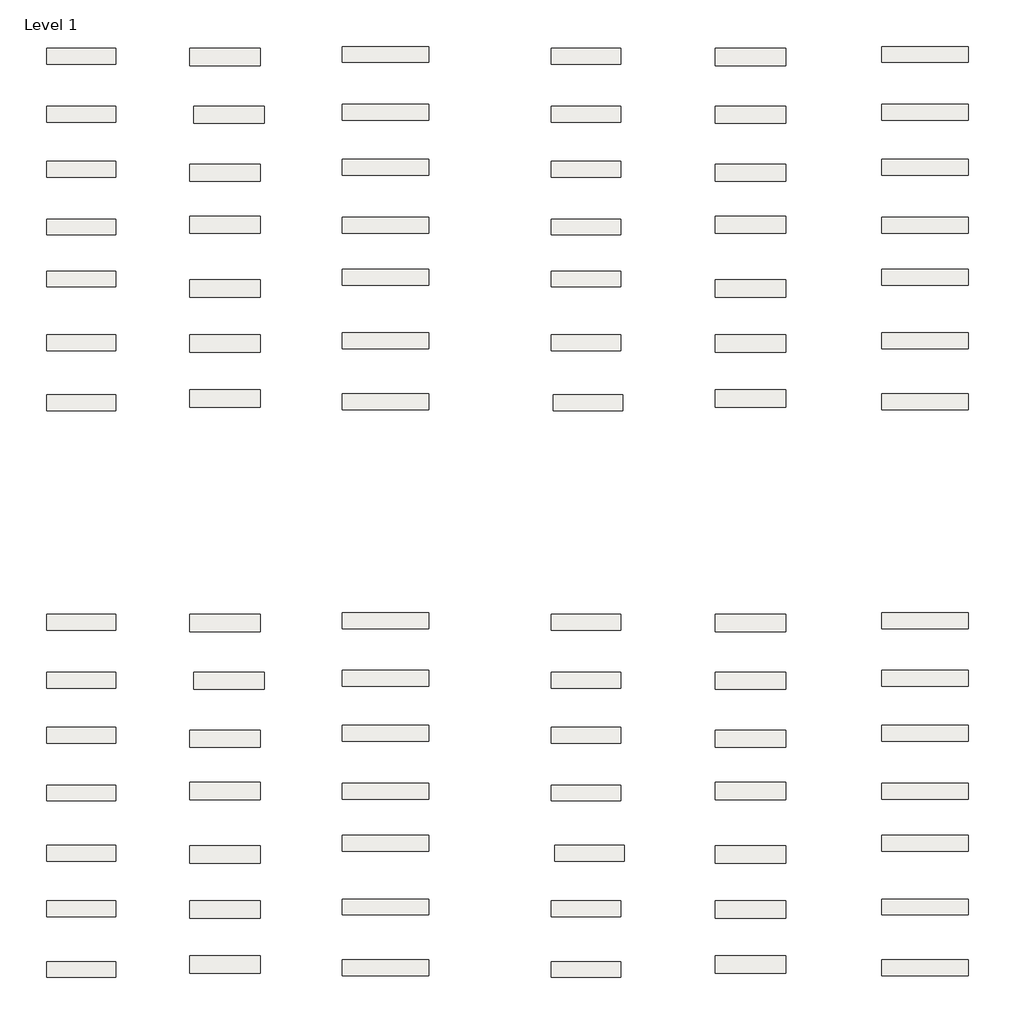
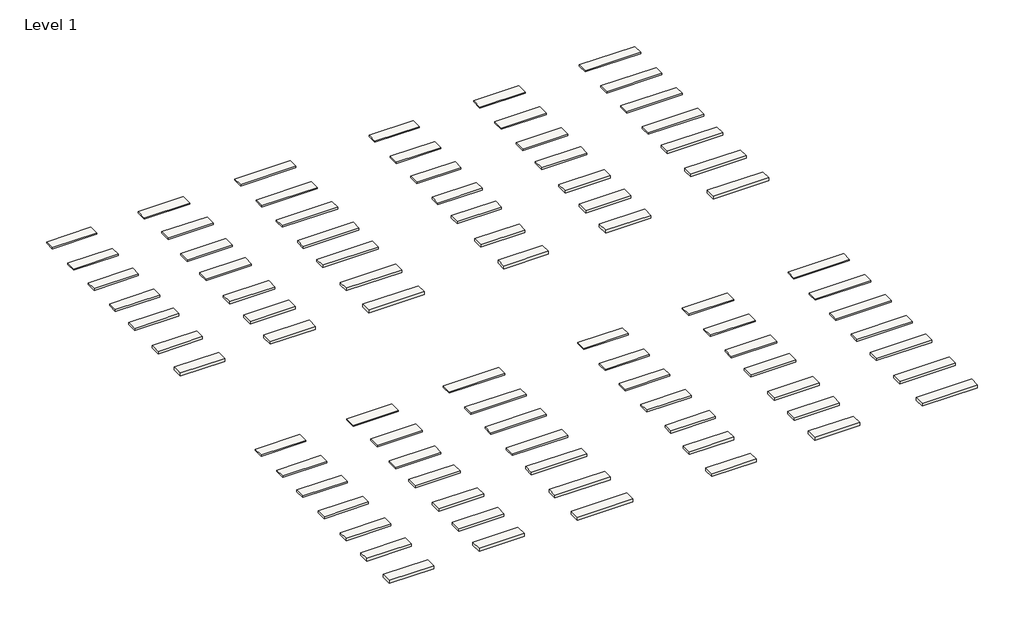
# One storey: 84 roofs.
"""IFC4 building model written with IfcOpenShell, lengths in millimetres."""

from ifc_helpers import new_model, si_unit, origin, origin_with_axes, place, context, project, spatial, polyline, outline, extrude, element, save

model = new_model("IFC4")

# Units and contexts
model_context = context("Model", 3, world=origin())
ifc_project = project(units=[si_unit("LENGTHUNIT", "METRE", prefix="MILLI")], contexts=[model_context])

# Site, building, storey
site = spatial("IfcSite", under=ifc_project)
building = spatial("IfcBuilding", under=site)
storey = spatial("IfcBuildingStorey", under=building, Name="Level 1", Elevation=0.0)

# Roofs
placement = place(None, origin())
element("IfcRoof", 1, ObjectType="Panel Thermochip TYH 12-40-16 (2400x550)", at=placement, inside=storey, context=model_context, shape_type="SweptSolid", body=[
    extrude(outline(polyline([(-14730.2639435, 6399.8223879), (-12330.2639435, 6399.8223879), (-12330.2639435, 5849.8223879), (-14730.2639435, 5849.8223879), (-14730.2639435, 6399.8223879)])), origin_with_axes(), (0.0, 0.0, 1.0), 68.0),
])
element("IfcRoof", 2, ObjectType="Panel Thermochip TYH 12-50-16 (2400x550)", at=placement, inside=storey, context=model_context, shape_type="SweptSolid", body=[
    extrude(outline(polyline([(-14730.2639435, 4399.8223879), (-12330.2639435, 4399.8223879), (-12330.2639435, 3849.8223879), (-14730.2639435, 3849.8223879), (-14730.2639435, 4399.8223879)])), origin_with_axes(), (0.0, 0.0, 1.0), 78.0),
])
element("IfcRoof", 3, ObjectType="Panel Thermochip TYH 12-60-16 (2400x550)", at=placement, inside=storey, context=model_context, shape_type="SweptSolid", body=[
    extrude(outline(polyline([(-14730.2639435, 2499.8223879), (-12330.2639435, 2499.8223879), (-12330.2639435, 1949.8223879), (-14730.2639435, 1949.8223879), (-14730.2639435, 2499.8223879)])), origin_with_axes(), (0.0, 0.0, 1.0), 88.0),
])
element("IfcRoof", 4, ObjectType="Panel Thermochip TYH 12-80-16 (2400x550)", at=placement, inside=storey, context=model_context, shape_type="SweptSolid", body=[
    extrude(outline(polyline([(-14730.2639435, 499.8223879), (-12330.2639435, 499.8223879), (-12330.2639435, -50.1776121), (-14730.2639435, -50.1776121), (-14730.2639435, 499.8223879)])), origin_with_axes(), (0.0, 0.0, 1.0), 108.0),
])
element("IfcRoof", 5, ObjectType="Panel Thermochip TYH 12-100-16 (2400x550)", at=placement, inside=storey, context=model_context, shape_type="SweptSolid", body=[
    extrude(outline(polyline([(-14730.2639435, -1300.1776121), (-12330.2639435, -1300.1776121), (-12330.2639435, -1850.1776121), (-14730.2639435, -1850.1776121), (-14730.2639435, -1300.1776121)])), origin_with_axes(), (0.0, 0.0, 1.0), 128.0),
])
element("IfcRoof", 6, ObjectType="Panel Thermochip TYH 12-120-16 (2400x550)", at=placement, inside=storey, context=model_context, shape_type="SweptSolid", body=[
    extrude(outline(polyline([(-14730.2639435, -3500.1776121), (-12330.2639435, -3500.1776121), (-12330.2639435, -4050.1776121), (-14730.2639435, -4050.1776121), (-14730.2639435, -3500.1776121)])), origin_with_axes(), (0.0, 0.0, 1.0), 148.0),
])
element("IfcRoof", 7, ObjectType="Panel Thermochip TYH 12-140-16 (2400x550)", at=placement, inside=storey, context=model_context, shape_type="SweptSolid", body=[
    extrude(outline(polyline([(-14730.2639435, -5581.0046098), (-12330.2639435, -5581.0046098), (-12330.2639435, -6131.0046098), (-14730.2639435, -6131.0046098), (-14730.2639435, -5581.0046098)])), origin_with_axes(), (0.0, 0.0, 1.0), 168.0),
])
element("IfcRoof", 8, ObjectType="Panel Thermochip TYH 12-40-16 (2440x600)", at=placement, inside=storey, context=model_context, shape_type="SweptSolid", body=[
    extrude(outline(polyline([(-9778.9678788, 6399.8223879), (-7338.9678788, 6399.8223879), (-7338.9678788, 5799.8223879), (-9778.9678788, 5799.8223879), (-9778.9678788, 6399.8223879)])), origin_with_axes(), (0.0, 0.0, 1.0), 68.0),
])
element("IfcRoof", 9, ObjectType="Panel Thermochip TYH 12-50-16 (2440x600)", at=placement, inside=storey, context=model_context, shape_type="SweptSolid", body=[
    extrude(outline(polyline([(-9639.4549313, 4404.6942874), (-7199.4549313, 4404.6942874), (-7199.4549313, 3804.6942874), (-9639.4549313, 3804.6942874), (-9639.4549313, 4404.6942874)])), origin_with_axes(), (0.0, 0.0, 1.0), 78.0),
])
element("IfcRoof", 10, ObjectType="Panel Thermochip TYH 12-60-16 (2440x600)", at=placement, inside=storey, context=model_context, shape_type="SweptSolid", body=[
    extrude(outline(polyline([(-9778.9678788, 2399.8223879), (-7338.9678788, 2399.8223879), (-7338.9678788, 1799.8223879), (-9778.9678788, 1799.8223879), (-9778.9678788, 2399.8223879)])), origin_with_axes(), (0.0, 0.0, 1.0), 88.0),
])
element("IfcRoof", 11, ObjectType="Panel Thermochip TYH 12-80-16 (2440x600)", at=placement, inside=storey, context=model_context, shape_type="SweptSolid", body=[
    extrude(outline(polyline([(-9778.9678788, 599.8223879), (-7338.9678788, 599.8223879), (-7338.9678788, -0.1776121), (-9778.9678788, -0.1776121), (-9778.9678788, 599.8223879)])), origin_with_axes(), (0.0, 0.0, 1.0), 108.0),
])
element("IfcRoof", 12, ObjectType="Panel Thermochip TYH 12-100-16 (2440x600)", at=placement, inside=storey, context=model_context, shape_type="SweptSolid", body=[
    extrude(outline(polyline([(-9778.9678788, -1600.1776121), (-7338.9678788, -1600.1776121), (-7338.9678788, -2200.1776121), (-9778.9678788, -2200.1776121), (-9778.9678788, -1600.1776121)])), origin_with_axes(), (0.0, 0.0, 1.0), 128.0),
])
element("IfcRoof", 13, ObjectType="Panel Thermochip TYH 12-120-16 (2440x600)", at=placement, inside=storey, context=model_context, shape_type="SweptSolid", body=[
    extrude(outline(polyline([(-9778.9678788, -3500.1776121), (-7338.9678788, -3500.1776121), (-7338.9678788, -4100.1776121), (-9778.9678788, -4100.1776121), (-9778.9678788, -3500.1776121)])), origin_with_axes(), (0.0, 0.0, 1.0), 148.0),
])
element("IfcRoof", 14, ObjectType="Panel Thermochip TYH 12-140-16 (2440x600)", at=placement, inside=storey, context=model_context, shape_type="SweptSolid", body=[
    extrude(outline(polyline([(-9778.9678788, -5400.1776121), (-7338.9678788, -5400.1776121), (-7338.9678788, -6000.1776121), (-9778.9678788, -6000.1776121), (-9778.9678788, -5400.1776121)])), origin_with_axes(), (0.0, 0.0, 1.0), 168.0),
])
element("IfcRoof", 15, ObjectType="Panel Thermochip TYH 12-40-16 (3000x550)", at=placement, inside=storey, context=model_context, shape_type="SweptSolid", body=[
    extrude(outline(polyline([(-4517.1497178, 6460.3549134), (-1517.1497178, 6460.3549134), (-1517.1497178, 5910.3549134), (-4517.1497178, 5910.3549134), (-4517.1497178, 6460.3549134)])), origin_with_axes(), (0.0, 0.0, 1.0), 68.0),
])
element("IfcRoof", 16, ObjectType="Panel Thermochip TYH 12-50-16 (3000x550)", at=placement, inside=storey, context=model_context, shape_type="SweptSolid", body=[
    extrude(outline(polyline([(-4517.1497178, 4460.3549134), (-1517.1497178, 4460.3549134), (-1517.1497178, 3910.3549134), (-4517.1497178, 3910.3549134), (-4517.1497178, 4460.3549134)])), origin_with_axes(), (0.0, 0.0, 1.0), 78.0),
])
element("IfcRoof", 17, ObjectType="Panel Thermochip TYH 12-60-16 (3000x550)", at=placement, inside=storey, context=model_context, shape_type="SweptSolid", body=[
    extrude(outline(polyline([(-4517.1497178, 2560.3549134), (-1517.1497178, 2560.3549134), (-1517.1497178, 2010.3549134), (-4517.1497178, 2010.3549134), (-4517.1497178, 2560.3549134)])), origin_with_axes(), (0.0, 0.0, 1.0), 88.0),
])
element("IfcRoof", 18, ObjectType="Panel Thermochip TYH 12-80-16 (3000x550)", at=placement, inside=storey, context=model_context, shape_type="SweptSolid", body=[
    extrude(outline(polyline([(-4517.1497178, 560.3549134), (-1517.1497178, 560.3549134), (-1517.1497178, 10.3549134), (-4517.1497178, 10.3549134), (-4517.1497178, 560.3549134)])), origin_with_axes(), (0.0, 0.0, 1.0), 108.0),
])
element("IfcRoof", 19, ObjectType="Panel Thermochip TYH 12-100-16 (3000x550)", at=placement, inside=storey, context=model_context, shape_type="SweptSolid", body=[
    extrude(outline(polyline([(-4517.1497178, -1239.6450866), (-1517.1497178, -1239.6450866), (-1517.1497178, -1789.6450866), (-4517.1497178, -1789.6450866), (-4517.1497178, -1239.6450866)])), origin_with_axes(), (0.0, 0.0, 1.0), 128.0),
])
element("IfcRoof", 20, ObjectType="Panel Thermochip TYH 12-120-16 (3000x600)", at=placement, inside=storey, context=model_context, shape_type="SweptSolid", body=[
    extrude(outline(polyline([(-4517.1497178, -3439.6450866), (-1517.1497178, -3439.6450866), (-1517.1497178, -3989.6450866), (-4517.1497178, -3989.6450866), (-4517.1497178, -3439.6450866)])), origin_with_axes(), (0.0, 0.0, 1.0), 148.0),
])
element("IfcRoof", 21, ObjectType="Panel Thermochip TYH 12-140-16 (3000x550)", at=placement, inside=storey, context=model_context, shape_type="SweptSolid", body=[
    extrude(outline(polyline([(-4517.1497178, -5539.6450866), (-1517.1497178, -5539.6450866), (-1517.1497178, -6089.6450866), (-4517.1497178, -6089.6450866), (-4517.1497178, -5539.6450866)])), origin_with_axes(), (0.0, 0.0, 1.0), 168.0),
])
element("IfcRoof", 22, ObjectType="Panel Thermochip TYH 12-40-19 (2400x550)", at=placement, inside=storey, context=model_context, shape_type="SweptSolid", body=[
    extrude(outline(polyline([(-14730.2639435, -13163.6783749), (-12330.2639435, -13163.6783749), (-12330.2639435, -13713.6783749), (-14730.2639435, -13713.6783749), (-14730.2639435, -13163.6783749)])), origin_with_axes(), (0.0, 0.0, 1.0), 71.0),
])
element("IfcRoof", 23, ObjectType="Panel Thermochip TYH 12-50-19 (2400x550)", at=placement, inside=storey, context=model_context, shape_type="SweptSolid", body=[
    extrude(outline(polyline([(-14730.2639435, -15163.6783749), (-12330.2639435, -15163.6783749), (-12330.2639435, -15713.6783749), (-14730.2639435, -15713.6783749), (-14730.2639435, -15163.6783749)])), origin_with_axes(), (0.0, 0.0, 1.0), 81.0),
])
element("IfcRoof", 24, ObjectType="Panel Thermochip TYH 12-60-19 (2400x550)", at=placement, inside=storey, context=model_context, shape_type="SweptSolid", body=[
    extrude(outline(polyline([(-14730.2639435, -17063.6783749), (-12330.2639435, -17063.6783749), (-12330.2639435, -17613.6783749), (-14730.2639435, -17613.6783749), (-14730.2639435, -17063.6783749)])), origin_with_axes(), (0.0, 0.0, 1.0), 91.0),
])
element("IfcRoof", 25, ObjectType="Panel Thermochip TYH 12-80-19 (2400x550)", at=placement, inside=storey, context=model_context, shape_type="SweptSolid", body=[
    extrude(outline(polyline([(-14730.2639435, -19063.6783749), (-12330.2639435, -19063.6783749), (-12330.2639435, -19613.6783749), (-14730.2639435, -19613.6783749), (-14730.2639435, -19063.6783749)])), origin_with_axes(), (0.0, 0.0, 1.0), 111.0),
])
element("IfcRoof", 26, ObjectType="Panel Thermochip TYH 12-100-19 (2400x550)", at=placement, inside=storey, context=model_context, shape_type="SweptSolid", body=[
    extrude(outline(polyline([(-14730.2639435, -21143.3614717), (-12330.2639435, -21143.3614717), (-12330.2639435, -21693.3614717), (-14730.2639435, -21693.3614717), (-14730.2639435, -21143.3614717)])), origin_with_axes(), (0.0, 0.0, 1.0), 131.0),
])
element("IfcRoof", 27, ObjectType="Panel Thermochip TYH 12-120-19 (2400x550)", at=placement, inside=storey, context=model_context, shape_type="SweptSolid", body=[
    extrude(outline(polyline([(-14730.2639435, -23063.6783749), (-12330.2639435, -23063.6783749), (-12330.2639435, -23613.6783749), (-14730.2639435, -23613.6783749), (-14730.2639435, -23063.6783749)])), origin_with_axes(), (0.0, 0.0, 1.0), 151.0),
])
element("IfcRoof", 28, ObjectType="Panel Thermochip TYH 12-140-19 (2400x550)", at=placement, inside=storey, context=model_context, shape_type="SweptSolid", body=[
    extrude(outline(polyline([(-14730.2639435, -25163.6783749), (-12330.2639435, -25163.6783749), (-12330.2639435, -25713.6783749), (-14730.2639435, -25713.6783749), (-14730.2639435, -25163.6783749)])), origin_with_axes(), (0.0, 0.0, 1.0), 171.0),
])
element("IfcRoof", 29, ObjectType="Panel Thermochip TYH 12-40-19 (2440x600)", at=placement, inside=storey, context=model_context, shape_type="SweptSolid", body=[
    extrude(outline(polyline([(-9778.9678788, -13163.6783749), (-7338.9678788, -13163.6783749), (-7338.9678788, -13763.6783749), (-9778.9678788, -13763.6783749), (-9778.9678788, -13163.6783749)])), origin_with_axes(), (0.0, 0.0, 1.0), 71.0),
])
element("IfcRoof", 30, ObjectType="Panel Thermochip TYH 12-50-19 (2440x600)", at=placement, inside=storey, context=model_context, shape_type="SweptSolid", body=[
    extrude(outline(polyline([(-9639.4549313, -15158.8064755), (-7199.4549313, -15158.8064755), (-7199.4549313, -15758.8064755), (-9639.4549313, -15758.8064755), (-9639.4549313, -15158.8064755)])), origin_with_axes(), (0.0, 0.0, 1.0), 81.0),
])
element("IfcRoof", 31, ObjectType="Panel Thermochip TYH 12-60-19 (2440x600)", at=placement, inside=storey, context=model_context, shape_type="SweptSolid", body=[
    extrude(outline(polyline([(-9778.9678788, -17163.6783749), (-7338.9678788, -17163.6783749), (-7338.9678788, -17763.6783749), (-9778.9678788, -17763.6783749), (-9778.9678788, -17163.6783749)])), origin_with_axes(), (0.0, 0.0, 1.0), 91.0),
])
element("IfcRoof", 32, ObjectType="Panel Thermochip TYH 12-80-19 (2440x600)", at=placement, inside=storey, context=model_context, shape_type="SweptSolid", body=[
    extrude(outline(polyline([(-9778.9678788, -18963.6783749), (-7338.9678788, -18963.6783749), (-7338.9678788, -19563.6783749), (-9778.9678788, -19563.6783749), (-9778.9678788, -18963.6783749)])), origin_with_axes(), (0.0, 0.0, 1.0), 111.0),
])
element("IfcRoof", 33, ObjectType="Panel Thermochip TYH 12-100-19 (2440x600)", at=placement, inside=storey, context=model_context, shape_type="SweptSolid", body=[
    extrude(outline(polyline([(-9778.9678788, -21163.6783749), (-7338.9678788, -21163.6783749), (-7338.9678788, -21763.6783749), (-9778.9678788, -21763.6783749), (-9778.9678788, -21163.6783749)])), origin_with_axes(), (0.0, 0.0, 1.0), 131.0),
])
element("IfcRoof", 34, ObjectType="Panel Thermochip TYH 12-120-19 (2440x600)", at=placement, inside=storey, context=model_context, shape_type="SweptSolid", body=[
    extrude(outline(polyline([(-9778.9678788, -23063.6783749), (-7338.9678788, -23063.6783749), (-7338.9678788, -23663.6783749), (-9778.9678788, -23663.6783749), (-9778.9678788, -23063.6783749)])), origin_with_axes(), (0.0, 0.0, 1.0), 151.0),
])
element("IfcRoof", 35, ObjectType="Panel Thermochip TYH 12-140-19 (2440x550)", at=placement, inside=storey, context=model_context, shape_type="SweptSolid", body=[
    extrude(outline(polyline([(-9778.9678788, -24963.6783749), (-7338.9678788, -24963.6783749), (-7338.9678788, -25563.6783749), (-9778.9678788, -25563.6783749), (-9778.9678788, -24963.6783749)])), origin_with_axes(), (0.0, 0.0, 1.0), 171.0),
])
element("IfcRoof", 36, ObjectType="Panel Thermochip TYH 12-40-19 (3000x550)", at=placement, inside=storey, context=model_context, shape_type="SweptSolid", body=[
    extrude(outline(polyline([(-4517.1497178, -13103.1458495), (-1517.1497178, -13103.1458495), (-1517.1497178, -13653.1458495), (-4517.1497178, -13653.1458495), (-4517.1497178, -13103.1458495)])), origin_with_axes(), (0.0, 0.0, 1.0), 71.0),
])
element("IfcRoof", 37, ObjectType="Panel Thermochip TYH 12-50-19 (3000x550)", at=placement, inside=storey, context=model_context, shape_type="SweptSolid", body=[
    extrude(outline(polyline([(-4517.1497178, -15103.1458495), (-1517.1497178, -15103.1458495), (-1517.1497178, -15653.1458495), (-4517.1497178, -15653.1458495), (-4517.1497178, -15103.1458495)])), origin_with_axes(), (0.0, 0.0, 1.0), 81.0),
])
element("IfcRoof", 38, ObjectType="Panel Thermochip TYH 12-60-19 (3000x550)", at=placement, inside=storey, context=model_context, shape_type="SweptSolid", body=[
    extrude(outline(polyline([(-4517.1497178, -17003.1458495), (-1517.1497178, -17003.1458495), (-1517.1497178, -17553.1458495), (-4517.1497178, -17553.1458495), (-4517.1497178, -17003.1458495)])), origin_with_axes(), (0.0, 0.0, 1.0), 91.0),
])
element("IfcRoof", 39, ObjectType="Panel Thermochip TYH 12-80-19 (3000x550)", at=placement, inside=storey, context=model_context, shape_type="SweptSolid", body=[
    extrude(outline(polyline([(-4517.1497178, -19003.1458495), (-1517.1497178, -19003.1458495), (-1517.1497178, -19553.1458495), (-4517.1497178, -19553.1458495), (-4517.1497178, -19003.1458495)])), origin_with_axes(), (0.0, 0.0, 1.0), 111.0),
])
element("IfcRoof", 40, ObjectType="Panel Thermochip TYH 12-100-19 (3000x550)", at=placement, inside=storey, context=model_context, shape_type="SweptSolid", body=[
    extrude(outline(polyline([(-4517.1497178, -20803.1458495), (-1517.1497178, -20803.1458495), (-1517.1497178, -21353.1458495), (-4517.1497178, -21353.1458495), (-4517.1497178, -20803.1458495)])), origin_with_axes(), (0.0, 0.0, 1.0), 131.0),
])
element("IfcRoof", 41, ObjectType="Panel Thermochip TYH 12-120-19 (3000x600)", at=placement, inside=storey, context=model_context, shape_type="SweptSolid", body=[
    extrude(outline(polyline([(-4517.1497178, -23003.1458495), (-1517.1497178, -23003.1458495), (-1517.1497178, -23553.1458495), (-4517.1497178, -23553.1458495), (-4517.1497178, -23003.1458495)])), origin_with_axes(), (0.0, 0.0, 1.0), 151.0),
])
element("IfcRoof", 42, ObjectType="Panel Thermochip TYH 12-140-19 (3000x550)", at=placement, inside=storey, context=model_context, shape_type="SweptSolid", body=[
    extrude(outline(polyline([(-4517.1497178, -25103.1458495), (-1517.1497178, -25103.1458495), (-1517.1497178, -25653.1458495), (-4517.1497178, -25653.1458495), (-4517.1497178, -25103.1458495)])), origin_with_axes(), (0.0, 0.0, 1.0), 171.0),
])
element("IfcRoof", 43, ObjectType="Panel Thermochip TYH 10-40-16 (2400x550)", at=placement, inside=storey, context=model_context, shape_type="SweptSolid", body=[
    extrude(outline(polyline([(2721.0321212, 6399.8223879), (5121.0321212, 6399.8223879), (5121.0321212, 5849.8223879), (2721.0321212, 5849.8223879), (2721.0321212, 6399.8223879)])), origin_with_axes(), (0.0, 0.0, 1.0), 66.0),
])
element("IfcRoof", 44, ObjectType="Panel Thermochip TYH 10-50-16 (2400x550)", at=placement, inside=storey, context=model_context, shape_type="SweptSolid", body=[
    extrude(outline(polyline([(2721.0321212, 4399.8223879), (5121.0321212, 4399.8223879), (5121.0321212, 3849.8223879), (2721.0321212, 3849.8223879), (2721.0321212, 4399.8223879)])), origin_with_axes(), (0.0, 0.0, 1.0), 76.0),
])
element("IfcRoof", 45, ObjectType="Panel Thermochip TYH 10-60-16 (2400x550)", at=placement, inside=storey, context=model_context, shape_type="SweptSolid", body=[
    extrude(outline(polyline([(2721.0321212, 2499.8223879), (5121.0321212, 2499.8223879), (5121.0321212, 1949.8223879), (2721.0321212, 1949.8223879), (2721.0321212, 2499.8223879)])), origin_with_axes(), (0.0, 0.0, 1.0), 86.0),
])
element("IfcRoof", 46, ObjectType="Panel Thermochip TYH 10-80-16 (2400x550)", at=placement, inside=storey, context=model_context, shape_type="SweptSolid", body=[
    extrude(outline(polyline([(2721.0321212, 499.8223879), (5121.0321212, 499.8223879), (5121.0321212, -50.1776121), (2721.0321212, -50.1776121), (2721.0321212, 499.8223879)])), origin_with_axes(), (0.0, 0.0, 1.0), 106.0),
])
element("IfcRoof", 47, ObjectType="Panel Thermochip TYH 10-100-16 (2400x550)", at=placement, inside=storey, context=model_context, shape_type="SweptSolid", body=[
    extrude(outline(polyline([(2721.0321212, -1300.1776121), (5121.0321212, -1300.1776121), (5121.0321212, -1850.1776121), (2721.0321212, -1850.1776121), (2721.0321212, -1300.1776121)])), origin_with_axes(), (0.0, 0.0, 1.0), 126.0),
])
element("IfcRoof", 48, ObjectType="Panel Thermochip TYH 10-120-16 (2400x550)", at=placement, inside=storey, context=model_context, shape_type="SweptSolid", body=[
    extrude(outline(polyline([(2721.0321212, -3500.1776121), (5121.0321212, -3500.1776121), (5121.0321212, -4050.1776121), (2721.0321212, -4050.1776121), (2721.0321212, -3500.1776121)])), origin_with_axes(), (0.0, 0.0, 1.0), 146.0),
])
element("IfcRoof", 49, ObjectType="Panel Thermochip TYH 10-140-16 (2400x550)", at=placement, inside=storey, context=model_context, shape_type="SweptSolid", body=[
    extrude(outline(polyline([(2779.6609283, -5581.0046098), (5179.6609283, -5581.0046098), (5179.6609283, -6131.0046098), (2779.6609283, -6131.0046098), (2779.6609283, -5581.0046098)])), origin_with_axes(), (0.0, 0.0, 1.0), 166.0),
])
element("IfcRoof", 50, ObjectType="Panel Thermochip TYH 10-40-16 (2440x550)", at=placement, inside=storey, context=model_context, shape_type="SweptSolid", body=[
    extrude(outline(polyline([(8374.3489159, 6399.8223879), (10814.3489159, 6399.8223879), (10814.3489159, 5799.8223879), (8374.3489159, 5799.8223879), (8374.3489159, 6399.8223879)])), origin_with_axes(), (0.0, 0.0, 1.0), 66.0),
])
element("IfcRoof", 51, ObjectType="Panel Thermochip TYH 10-50-16 (2440x600)", at=placement, inside=storey, context=model_context, shape_type="SweptSolid", body=[
    extrude(outline(polyline([(8374.3489159, 4404.6942874), (10814.3489159, 4404.6942874), (10814.3489159, 3804.6942874), (8374.3489159, 3804.6942874), (8374.3489159, 4404.6942874)])), origin_with_axes(), (0.0, 0.0, 1.0), 76.0),
])
element("IfcRoof", 52, ObjectType="Panel Thermochip TYH 10-60-16 (2440x600)", at=placement, inside=storey, context=model_context, shape_type="SweptSolid", body=[
    extrude(outline(polyline([(8374.3489159, 2399.8223879), (10814.3489159, 2399.8223879), (10814.3489159, 1799.8223879), (8374.3489159, 1799.8223879), (8374.3489159, 2399.8223879)])), origin_with_axes(), (0.0, 0.0, 1.0), 86.0),
])
element("IfcRoof", 53, ObjectType="Panel Thermochip TYH 10-80-16 (2440x600)", at=placement, inside=storey, context=model_context, shape_type="SweptSolid", body=[
    extrude(outline(polyline([(8374.3489159, 599.8223879), (10814.3489159, 599.8223879), (10814.3489159, -0.1776121), (8374.3489159, -0.1776121), (8374.3489159, 599.8223879)])), origin_with_axes(), (0.0, 0.0, 1.0), 106.0),
])
element("IfcRoof", 54, ObjectType="Panel Thermochip TYH 10-100-16 (2440x600)", at=placement, inside=storey, context=model_context, shape_type="SweptSolid", body=[
    extrude(outline(polyline([(8374.3489159, -1600.1776121), (10814.3489159, -1600.1776121), (10814.3489159, -2200.1776121), (8374.3489159, -2200.1776121), (8374.3489159, -1600.1776121)])), origin_with_axes(), (0.0, 0.0, 1.0), 126.0),
])
element("IfcRoof", 55, ObjectType="Panel Thermochip TYH 10-120-16 (2440x600)", at=placement, inside=storey, context=model_context, shape_type="SweptSolid", body=[
    extrude(outline(polyline([(8374.3489159, -3500.1776121), (10814.3489159, -3500.1776121), (10814.3489159, -4100.1776121), (8374.3489159, -4100.1776121), (8374.3489159, -3500.1776121)])), origin_with_axes(), (0.0, 0.0, 1.0), 146.0),
])
element("IfcRoof", 56, ObjectType="Panel Thermochip TYH 10-140-16 (2440x550)", at=placement, inside=storey, context=model_context, shape_type="SweptSolid", body=[
    extrude(outline(polyline([(8374.3489159, -5400.1776121), (10814.3489159, -5400.1776121), (10814.3489159, -6000.1776121), (8374.3489159, -6000.1776121), (8374.3489159, -5400.1776121)])), origin_with_axes(), (0.0, 0.0, 1.0), 166.0),
])
element("IfcRoof", 57, ObjectType="Panel Thermochip TYH 10-40-16 (3000x550)", at=placement, inside=storey, context=model_context, shape_type="SweptSolid", body=[
    extrude(outline(polyline([(14131.9724972, 6460.3549134), (17131.9724972, 6460.3549134), (17131.9724972, 5910.3549134), (14131.9724972, 5910.3549134), (14131.9724972, 6460.3549134)])), origin_with_axes(), (0.0, 0.0, 1.0), 66.0),
])
element("IfcRoof", 58, ObjectType="Panel Thermochip TYH 10-50-16 (3000x5500)", at=placement, inside=storey, context=model_context, shape_type="SweptSolid", body=[
    extrude(outline(polyline([(14131.9724972, 4460.3549134), (17131.9724972, 4460.3549134), (17131.9724972, 3910.3549134), (14131.9724972, 3910.3549134), (14131.9724972, 4460.3549134)])), origin_with_axes(), (0.0, 0.0, 1.0), 76.0),
])
element("IfcRoof", 59, ObjectType="Panel Thermochip TYH 10-60-16 (3000x550)", at=placement, inside=storey, context=model_context, shape_type="SweptSolid", body=[
    extrude(outline(polyline([(14131.9724972, 2560.3549134), (17131.9724972, 2560.3549134), (17131.9724972, 2010.3549134), (14131.9724972, 2010.3549134), (14131.9724972, 2560.3549134)])), origin_with_axes(), (0.0, 0.0, 1.0), 86.0),
])
element("IfcRoof", 60, ObjectType="Panel Thermochip TYH 10-80-16 (3000x550)", at=placement, inside=storey, context=model_context, shape_type="SweptSolid", body=[
    extrude(outline(polyline([(14131.9724972, 560.3549134), (17131.9724972, 560.3549134), (17131.9724972, 10.3549134), (14131.9724972, 10.3549134), (14131.9724972, 560.3549134)])), origin_with_axes(), (0.0, 0.0, 1.0), 106.0),
])
element("IfcRoof", 61, ObjectType="Panel Thermochip TYH 10-100-16 (3000x550)", at=placement, inside=storey, context=model_context, shape_type="SweptSolid", body=[
    extrude(outline(polyline([(14131.9724972, -1239.6450866), (17131.9724972, -1239.6450866), (17131.9724972, -1789.6450866), (14131.9724972, -1789.6450866), (14131.9724972, -1239.6450866)])), origin_with_axes(), (0.0, 0.0, 1.0), 126.0),
])
element("IfcRoof", 62, ObjectType="Panel Thermochip TYH 10-120-16 (3000x600)", at=placement, inside=storey, context=model_context, shape_type="SweptSolid", body=[
    extrude(outline(polyline([(14131.9724972, -3439.6450866), (17131.9724972, -3439.6450866), (17131.9724972, -3989.6450866), (14131.9724972, -3989.6450866), (14131.9724972, -3439.6450866)])), origin_with_axes(), (0.0, 0.0, 1.0), 146.0),
])
element("IfcRoof", 63, ObjectType="Panel Thermochip TYH 10-140-16 (3000x550)", at=placement, inside=storey, context=model_context, shape_type="SweptSolid", body=[
    extrude(outline(polyline([(14131.9724972, -5539.6450866), (17131.9724972, -5539.6450866), (17131.9724972, -6089.6450866), (14131.9724972, -6089.6450866), (14131.9724972, -5539.6450866)])), origin_with_axes(), (0.0, 0.0, 1.0), 166.0),
])
element("IfcRoof", 64, ObjectType="Panel Thermochip TYH 10-40-19 (2400x550)", at=placement, inside=storey, context=model_context, shape_type="SweptSolid", body=[
    extrude(outline(polyline([(2721.0321212, -13163.6783749), (5121.0321212, -13163.6783749), (5121.0321212, -13713.6783749), (2721.0321212, -13713.6783749), (2721.0321212, -13163.6783749)])), origin_with_axes(), (0.0, 0.0, 1.0), 69.0),
])
element("IfcRoof", 65, ObjectType="Panel Thermochip TYH 10-50-19 (2400x550)", at=placement, inside=storey, context=model_context, shape_type="SweptSolid", body=[
    extrude(outline(polyline([(2721.0321212, -15163.6783749), (5121.0321212, -15163.6783749), (5121.0321212, -15713.6783749), (2721.0321212, -15713.6783749), (2721.0321212, -15163.6783749)])), origin_with_axes(), (0.0, 0.0, 1.0), 79.0),
])
element("IfcRoof", 66, ObjectType="Panel Thermochip TYH 10-60-19 (2400x550)", at=placement, inside=storey, context=model_context, shape_type="SweptSolid", body=[
    extrude(outline(polyline([(2721.0321212, -17063.6783749), (5121.0321212, -17063.6783749), (5121.0321212, -17613.6783749), (2721.0321212, -17613.6783749), (2721.0321212, -17063.6783749)])), origin_with_axes(), (0.0, 0.0, 1.0), 89.0),
])
element("IfcRoof", 67, ObjectType="Panel Thermochip TYH 10-80-19 (2400x550)", at=placement, inside=storey, context=model_context, shape_type="SweptSolid", body=[
    extrude(outline(polyline([(2721.0321212, -19063.6783749), (5121.0321212, -19063.6783749), (5121.0321212, -19613.6783749), (2721.0321212, -19613.6783749), (2721.0321212, -19063.6783749)])), origin_with_axes(), (0.0, 0.0, 1.0), 109.0),
])
element("IfcRoof", 68, ObjectType="Panel Thermochip TYH 10-100-19 (2400x550)", at=placement, inside=storey, context=model_context, shape_type="SweptSolid", body=[
    extrude(outline(polyline([(2832.9053599, -21143.3614717), (5232.9053599, -21143.3614717), (5232.9053599, -21693.3614717), (2832.9053599, -21693.3614717), (2832.9053599, -21143.3614717)])), origin_with_axes(), (0.0, 0.0, 1.0), 129.0),
])
element("IfcRoof", 69, ObjectType="Panel Thermochip TYH 10-120-19 (2400x550)", at=placement, inside=storey, context=model_context, shape_type="SweptSolid", body=[
    extrude(outline(polyline([(2721.0321212, -23063.6783749), (5121.0321212, -23063.6783749), (5121.0321212, -23613.6783749), (2721.0321212, -23613.6783749), (2721.0321212, -23063.6783749)])), origin_with_axes(), (0.0, 0.0, 1.0), 149.0),
])
element("IfcRoof", 70, ObjectType="Panel Thermochip TYH 10-140-19 (2400x550)", at=placement, inside=storey, context=model_context, shape_type="SweptSolid", body=[
    extrude(outline(polyline([(2721.0321212, -25163.6783749), (5121.0321212, -25163.6783749), (5121.0321212, -25713.6783749), (2721.0321212, -25713.6783749), (2721.0321212, -25163.6783749)])), origin_with_axes(), (0.0, 0.0, 1.0), 169.0),
])
element("IfcRoof", 71, ObjectType="Panel Thermochip TYH 10-40-19 (2440x600)", at=placement, inside=storey, context=model_context, shape_type="SweptSolid", body=[
    extrude(outline(polyline([(8374.3489159, -13163.6783749), (10814.3489159, -13163.6783749), (10814.3489159, -13763.6783749), (8374.3489159, -13763.6783749), (8374.3489159, -13163.6783749)])), origin_with_axes(), (0.0, 0.0, 1.0), 69.0),
])
element("IfcRoof", 72, ObjectType="Panel Thermochip TYH 10-50-19 (2440x600)", at=placement, inside=storey, context=model_context, shape_type="SweptSolid", body=[
    extrude(outline(polyline([(8374.3489159, -15158.8064755), (10814.3489159, -15158.8064755), (10814.3489159, -15758.8064755), (8374.3489159, -15758.8064755), (8374.3489159, -15158.8064755)])), origin_with_axes(), (0.0, 0.0, 1.0), 79.0),
])
element("IfcRoof", 73, ObjectType="Panel Thermochip TYH 10-60-19 (2440x600)", at=placement, inside=storey, context=model_context, shape_type="SweptSolid", body=[
    extrude(outline(polyline([(8374.3489159, -17163.6783749), (10814.3489159, -17163.6783749), (10814.3489159, -17763.6783749), (8374.3489159, -17763.6783749), (8374.3489159, -17163.6783749)])), origin_with_axes(), (0.0, 0.0, 1.0), 89.0),
])
element("IfcRoof", 74, ObjectType="Panel Thermochip TYH 10-80-19 (2440x600)", at=placement, inside=storey, context=model_context, shape_type="SweptSolid", body=[
    extrude(outline(polyline([(8374.3489159, -18963.6783749), (10814.3489159, -18963.6783749), (10814.3489159, -19563.6783749), (8374.3489159, -19563.6783749), (8374.3489159, -18963.6783749)])), origin_with_axes(), (0.0, 0.0, 1.0), 109.0),
])
element("IfcRoof", 75, ObjectType="Panel Thermochip TYH 10-100-19 (2440x600)", at=placement, inside=storey, context=model_context, shape_type="SweptSolid", body=[
    extrude(outline(polyline([(8374.3489159, -21163.6783749), (10814.3489159, -21163.6783749), (10814.3489159, -21763.6783749), (8374.3489159, -21763.6783749), (8374.3489159, -21163.6783749)])), origin_with_axes(), (0.0, 0.0, 1.0), 129.0),
])
element("IfcRoof", 76, ObjectType="Panel Thermochip TYH 10-120-19 (2440x600)", at=placement, inside=storey, context=model_context, shape_type="SweptSolid", body=[
    extrude(outline(polyline([(8374.3489159, -23063.6783749), (10814.3489159, -23063.6783749), (10814.3489159, -23663.6783749), (8374.3489159, -23663.6783749), (8374.3489159, -23063.6783749)])), origin_with_axes(), (0.0, 0.0, 1.0), 149.0),
])
element("IfcRoof", 77, ObjectType="Panel Thermochip TYH 10-140-19 (2440x550)", at=placement, inside=storey, context=model_context, shape_type="SweptSolid", body=[
    extrude(outline(polyline([(8374.3489159, -24963.6783749), (10814.3489159, -24963.6783749), (10814.3489159, -25563.6783749), (8374.3489159, -25563.6783749), (8374.3489159, -24963.6783749)])), origin_with_axes(), (0.0, 0.0, 1.0), 169.0),
])
element("IfcRoof", 78, ObjectType="Panel Thermochip TYH 10-40-19 (3000x550)", at=placement, inside=storey, context=model_context, shape_type="SweptSolid", body=[
    extrude(outline(polyline([(14131.9724972, -13103.1458495), (17131.9724972, -13103.1458495), (17131.9724972, -13653.1458495), (14131.9724972, -13653.1458495), (14131.9724972, -13103.1458495)])), origin_with_axes(), (0.0, 0.0, 1.0), 69.0),
])
element("IfcRoof", 79, ObjectType="Panel Thermochip TYH 10-50-19 (3000x550)", at=placement, inside=storey, context=model_context, shape_type="SweptSolid", body=[
    extrude(outline(polyline([(14131.9724972, -15103.1458495), (17131.9724972, -15103.1458495), (17131.9724972, -15653.1458495), (14131.9724972, -15653.1458495), (14131.9724972, -15103.1458495)])), origin_with_axes(), (0.0, 0.0, 1.0), 79.0),
])
element("IfcRoof", 80, ObjectType="Panel Thermochip TYH 10-60-19 (3000x550)", at=placement, inside=storey, context=model_context, shape_type="SweptSolid", body=[
    extrude(outline(polyline([(14131.9724972, -17003.1458495), (17131.9724972, -17003.1458495), (17131.9724972, -17553.1458495), (14131.9724972, -17553.1458495), (14131.9724972, -17003.1458495)])), origin_with_axes(), (0.0, 0.0, 1.0), 89.0),
])
element("IfcRoof", 81, ObjectType="Panel Thermochip TYH 10-80-19 (3000x550)", at=placement, inside=storey, context=model_context, shape_type="SweptSolid", body=[
    extrude(outline(polyline([(14131.9724972, -19003.1458495), (17131.9724972, -19003.1458495), (17131.9724972, -19553.1458495), (14131.9724972, -19553.1458495), (14131.9724972, -19003.1458495)])), origin_with_axes(), (0.0, 0.0, 1.0), 109.0),
])
element("IfcRoof", 82, ObjectType="Panel Thermochip TYH 10-100-19 (3000x550)", at=placement, inside=storey, context=model_context, shape_type="SweptSolid", body=[
    extrude(outline(polyline([(14131.9724972, -20803.1458495), (17131.9724972, -20803.1458495), (17131.9724972, -21353.1458495), (14131.9724972, -21353.1458495), (14131.9724972, -20803.1458495)])), origin_with_axes(), (0.0, 0.0, 1.0), 129.0),
])
element("IfcRoof", 83, ObjectType="Panel Thermochip TYH 10-120-19 (3000x600)", at=placement, inside=storey, context=model_context, shape_type="SweptSolid", body=[
    extrude(outline(polyline([(14131.9724972, -23003.1458495), (17131.9724972, -23003.1458495), (17131.9724972, -23553.1458495), (14131.9724972, -23553.1458495), (14131.9724972, -23003.1458495)])), origin_with_axes(), (0.0, 0.0, 1.0), 149.0),
])
element("IfcRoof", 84, ObjectType="Panel Thermochip TYH 10-140-19 (3000x550)", at=placement, inside=storey, context=model_context, shape_type="SweptSolid", body=[
    extrude(outline(polyline([(14131.9724972, -25103.1458495), (17131.9724972, -25103.1458495), (17131.9724972, -25653.1458495), (14131.9724972, -25653.1458495), (14131.9724972, -25103.1458495)])), origin_with_axes(), (0.0, 0.0, 1.0), 169.0),
])

save(model, "model.ifc")
